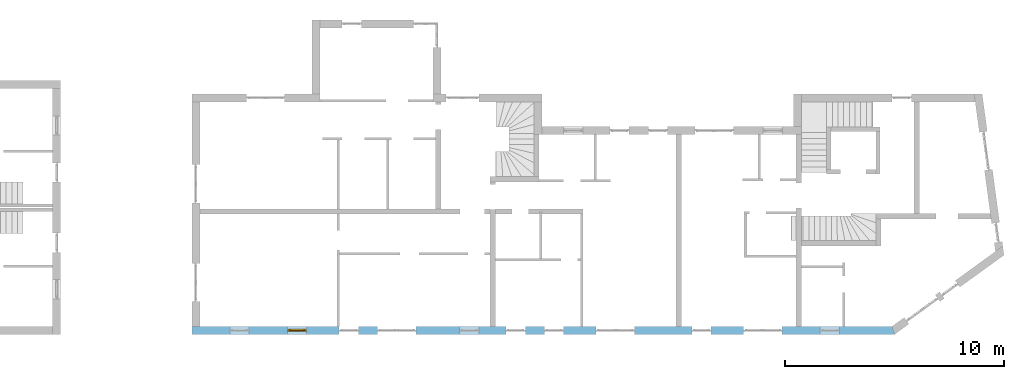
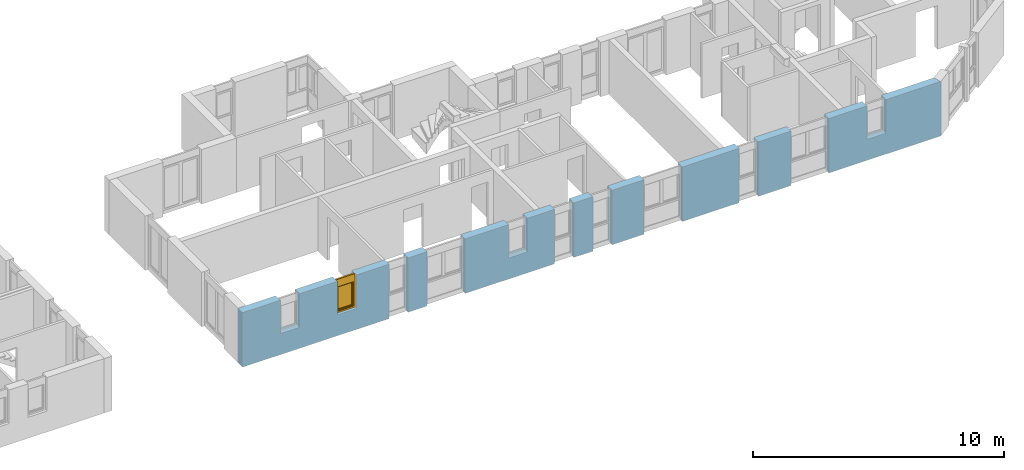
# One storey, part 29 of 42: 1 window, 11 openings, plus 1 element that does not belong to this part.
"""IFC2X3 building model written with IfcOpenShell, lengths in millimetres."""

from ifc_helpers import new_model, entity, si_unit, converted_unit, frame, frame_2d, origin, origin_with_axes, place, context, subcontext, project, spatial, polyline, rectangle, outline, extrude, faceted_brep, material, layer, layer_set, layer_usage, type_object, element, fill, save


model = new_model("IFC2X3")

# Units and contexts
model_context = context("Model", 3, precision=1e-05, world=origin())
body_context = subcontext(model_context, "Body", "Model", "MODEL_VIEW")
ifc_project = project(units=[si_unit("LENGTHUNIT", "METRE", prefix="MILLI"), converted_unit("PLANEANGLEUNIT", "DEGREE", entity("IfcPlaneAngleMeasure", 0.0174532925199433), si_unit("PLANEANGLEUNIT", "RADIAN"), dimensions=[0, 0, 0, 0, 0, 0, 0]), si_unit("AREAUNIT", "SQUARE_METRE"), si_unit("VOLUMEUNIT", "CUBIC_METRE")], contexts=[model_context])

# Building, storey
building_placement = place(None, origin())
building = spatial("IfcBuilding", under=ifc_project, at=building_placement, Name="Gebäude", CompositionType="ELEMENT")
storey_placement = place(building_placement, frame((0.0, 0.0, 2730.0), z_axis=(0.0, 0.0, 1.0), x_axis=(1.0, 0.0, 0.0)))
storey = spatial("IfcBuildingStorey", under=building, at=storey_placement, Name="OG.- Grundriss", CompositionType="ELEMENT", Elevation=2730.0)

# Wall, openings, window
ifc_material_1 = material(Name="Poroton")
ifc_layer = layer(ifc_material_1, 365.0000000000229)
ifc_layer_set = layer_set([ifc_layer])
ifc_layer_usage = layer_usage(ifc_layer_set, "AXIS2", "POSITIVE", 0.0)
wall_placement = place(storey_placement, frame((148357.7928067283, 125274.8877324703, 0.0), z_axis=(0.0, 0.0, 1.0), x_axis=(1.0, -2.749268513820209e-11, 0.0)))
wall = element("IfcWallStandardCase", 1, at=wall_placement, inside=storey, material=ifc_layer_usage, Name="<Unnamed Element>", context=body_context, shape_type="SweptSolid", body=[
    extrude(outline(polyline([(0.0, 0.0), (32144.99999877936, 0.0), (32026.74038666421, 365.0000000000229), (-1.003483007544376e-08, 365.0), (0.0, 0.0)])), origin_with_axes(), (0.0, 0.0, 1.0), 2650.0),
])
opening_1_placement = place(wall_placement, frame((22865.29648749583, -9.393166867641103e-11, 0.0), z_axis=(0.0, 1.0, 0.0), x_axis=(0.0, 0.0, 1.0)))
element("IfcOpeningElement", 2, at=opening_1_placement, cuts=wall, Name="Fensteröffnung", ObjectType="Opening", context=body_context, shape_type="SweptSolid", body=[
    extrude(rectangle(XDim=2650.0, YDim=885.0, at=frame_2d((1325.0, 442.5), x_axis=(1.0, 0.0))), origin_with_axes(), (0.0, 0.0, 1.0), 365.0000000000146),
])
opening_2_placement = place(wall_placement, frame((25240.29648749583, -1.030266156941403e-10, 0.0), z_axis=(0.0, 1.0, 0.0), x_axis=(0.0, 0.0, 1.0)))
element("IfcOpeningElement", 3, at=opening_2_placement, cuts=wall, Name="Fensteröffnung", ObjectType="Opening", context=body_context, shape_type="SweptSolid", body=[
    extrude(rectangle(XDim=2650.0, YDim=1760.0, at=frame_2d((1325.0, 880.0), x_axis=(1.0, 0.0))), origin_with_axes(), (0.0, 0.0, 1.0), 365.0000000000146),
])
opening_3_placement = place(wall_placement, frame((14365.26291869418, -5.847463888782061e-11, 0.0), z_axis=(0.0, 1.0, 0.0), x_axis=(0.0, 0.0, 1.0)))
element("IfcOpeningElement", 4, at=opening_3_placement, cuts=wall, Name="Fensteröffnung", ObjectType="Opening", context=body_context, shape_type="SweptSolid", body=[
    extrude(rectangle(XDim=2650.0, YDim=885.0, at=frame_2d((1325.0, 442.5), x_axis=(1.0, 0.0))), origin_with_axes(), (0.0, 0.0, 1.0), 365.0000000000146),
])
opening_4_placement = place(wall_placement, frame((16123.92212975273, -7.146586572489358e-11, 0.0), z_axis=(0.0, 1.0, 0.0), x_axis=(0.0, 0.0, 1.0)))
element("IfcOpeningElement", 5, at=opening_4_placement, cuts=wall, Name="Fensteröffnung", ObjectType="Opening", context=body_context, shape_type="SweptSolid", body=[
    extrude(rectangle(XDim=2650.0, YDim=885.0, at=frame_2d((1325.0, 442.5), x_axis=(1.0, 0.0))), origin_with_axes(), (0.0, 0.0, 1.0), 365.0000000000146),
])
opening_5_placement = place(wall_placement, frame((6739.999999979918, -3.114109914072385e-11, 0.0), z_axis=(0.0, 1.0, 0.0), x_axis=(0.0, 0.0, 1.0)))
element("IfcOpeningElement", 6, at=opening_5_placement, cuts=wall, Name="Fensteröffnung", ObjectType="Opening", context=body_context, shape_type="SweptSolid", body=[
    extrude(rectangle(XDim=2650.0, YDim=885.0, at=frame_2d((1325.0, 442.5), x_axis=(1.0, 0.0))), origin_with_axes(), (0.0, 0.0, 1.0), 365.0000000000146),
])
opening_6_placement = place(wall_placement, frame((8489.999999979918, -3.477907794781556e-11, 0.0), z_axis=(0.0, 1.0, 0.0), x_axis=(0.0, 0.0, 1.0)))
element("IfcOpeningElement", 7, at=opening_6_placement, cuts=wall, Name="Fensteröffnung", ObjectType="Opening", context=body_context, shape_type="SweptSolid", body=[
    extrude(rectangle(XDim=2650.0, YDim=1760.0, at=frame_2d((1325.0, 880.0), x_axis=(1.0, 0.0))), origin_with_axes(), (0.0, 0.0, 1.0), 365.0000000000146),
])
opening_7_placement = place(wall_placement, frame((1740.0, -3.114109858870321e-11, 1020.0), z_axis=(0.0, 1.0, 0.0), x_axis=(0.0, 0.0, 1.0)))
element("IfcOpeningElement", 8, at=opening_7_placement, cuts=wall, Name="Fensteröffnung", ObjectType="Opening", context=body_context, shape_type="SweptSolid", body=[
    extrude(rectangle(XDim=1630.0, YDim=885.0, at=frame_2d((815.0, 442.5), x_axis=(1.0, 0.0))), origin_with_axes(), (0.0, 0.0, 1.0), 365.0000000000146),
])
opening_8_placement = place(wall_placement, frame((4365.0, -7.494236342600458e-12, 1020.0), z_axis=(0.0, 1.0, 0.0), x_axis=(0.0, 0.0, 1.0)))
opening_8 = element("IfcOpeningElement", 9, at=opening_8_placement, cuts=wall, Name="Fensteröffnung", ObjectType="Opening", context=body_context, shape_type="SweptSolid", body=[
    extrude(rectangle(XDim=1630.0, YDim=885.0, at=frame_2d((815.0, 442.5), x_axis=(1.0, 0.0))), origin_with_axes(), (0.0, 0.0, 1.0), 365.0000000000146),
])
opening_9_placement = place(wall_placement, frame((12240.0, -5.296897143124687e-11, 1020.0), z_axis=(0.0, 1.0, 0.0), x_axis=(0.0, 0.0, 1.0)))
element("IfcOpeningElement", 10, at=opening_9_placement, cuts=wall, Name="Fensteröffnung", ObjectType="Opening", context=body_context, shape_type="SweptSolid", body=[
    extrude(rectangle(XDim=1630.0, YDim=885.0, at=frame_2d((815.0, 442.5), x_axis=(1.0, 0.0))), origin_with_axes(), (0.0, 0.0, 1.0), 365.0000000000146),
])
opening_10_placement = place(wall_placement, frame((18490.51063065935, -4.984640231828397e-11, 0.0), z_axis=(0.0, 1.0, 0.0), x_axis=(0.0, 0.0, 1.0)))
element("IfcOpeningElement", 11, at=opening_10_placement, cuts=wall, Name="Fensteröffnung", ObjectType="Opening", context=body_context, shape_type="SweptSolid", body=[
    extrude(rectangle(XDim=2650.0, YDim=1760.0, at=frame_2d((1325.0, 880.0), x_axis=(1.0, 0.0))), origin_with_axes(), (0.0, 0.0, 1.0), 365.0000000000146),
])
opening_11_placement = place(wall_placement, frame((28740.29648749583, -1.103025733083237e-10, 1020.0), z_axis=(0.0, 1.0, 0.0), x_axis=(0.0, 0.0, 1.0)))
element("IfcOpeningElement", 12, at=opening_11_placement, cuts=wall, Name="Fensteröffnung", ObjectType="Opening", context=body_context, shape_type="SweptSolid", body=[
    extrude(rectangle(XDim=1630.0, YDim=885.0, at=frame_2d((815.0, 442.5), x_axis=(1.0, 0.0))), origin_with_axes(), (0.0, 0.0, 1.0), 365.0000000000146),
])
ifc_material_2 = material()
window_style = type_object("IfcWindowStyle", Name="Fenster", ConstructionType="NOTDEFINED", OperationType="USERDEFINED", ParameterTakesPrecedence=False, Sizeable=False)
window_placement = place(opening_8_placement, frame((0.0, 0.0, 0.0), z_axis=(1.0, 0.0, 0.0), x_axis=(0.0, 1.0, 0.0)))
window = element("IfcWindow", 13, at=window_placement, inside=storey, type_object=window_style, material=ifc_material_2, Name="Fenster", OverallHeight=1630.0, OverallWidth=885.0, context=body_context, shape_type="Brep", body=[
    faceted_brep([(-1.221113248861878e-08, 200.000000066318, 1630.0), (-1.221113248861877e-08, 200.0000000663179, -2.449293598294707e-15), (69.99999998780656, 200.0000000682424, -2.449293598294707e-15), (69.99999998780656, 200.0000000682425, 1630.0), (-1.001171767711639e-08, 120.0000000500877, 2.449293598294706e-15), (-1.00117176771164e-08, 120.0000000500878, 1630.0), (69.99999999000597, 120.0000000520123, 1630.0), (69.99999999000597, 120.0000000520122, 2.449293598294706e-15), (-1.221113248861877e-08, 200.0000000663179, -2.449293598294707e-15), (-1.221113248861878e-08, 200.000000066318, 1630.0), (-1.00117176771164e-08, 120.0000000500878, 1630.0), (-1.001171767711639e-08, 120.0000000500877, 2.449293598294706e-15), (69.99999998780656, 200.0000000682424, -2.449293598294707e-15), (-1.221113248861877e-08, 200.0000000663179, -2.449293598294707e-15), (-1.001171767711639e-08, 120.0000000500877, 2.449293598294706e-15), (69.99999999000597, 120.0000000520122, 2.449293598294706e-15), (69.99999998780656, 200.0000000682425, 1630.0), (69.99999998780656, 200.0000000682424, -2.449293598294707e-15), (69.99999999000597, 120.0000000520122, 2.449293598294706e-15), (69.99999999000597, 120.0000000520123, 1630.0), (-1.221113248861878e-08, 200.000000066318, 1630.0), (69.99999998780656, 200.0000000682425, 1630.0), (69.99999999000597, 120.0000000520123, 1630.0), (-1.00117176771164e-08, 120.0000000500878, 1630.0)], [[[0, 1, 2, 3]], [[4, 5, 6, 7]], [[8, 9, 10, 11]], [[12, 13, 14, 15]], [[16, 17, 18, 19]], [[20, 21, 22, 23]]], orient=[[False], [False], [False], [False], [False], [False]]),
    faceted_brep([(814.9999999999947, 200.0000000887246, 1630.0), (814.9999999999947, 200.0000000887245, -2.449293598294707e-15), (885.0000000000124, 200.0000000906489, -2.449293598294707e-15), (885.0000000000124, 200.0000000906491, 1630.0), (815.000000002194, 120.0000000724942, 2.449293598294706e-15), (815.000000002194, 120.0000000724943, 1630.0), (885.0000000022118, 120.0000000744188, 1630.0), (885.0000000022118, 120.0000000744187, 2.449293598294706e-15), (814.9999999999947, 200.0000000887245, -2.449293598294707e-15), (814.9999999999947, 200.0000000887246, 1630.0), (815.000000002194, 120.0000000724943, 1630.0), (815.000000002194, 120.0000000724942, 2.449293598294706e-15), (885.0000000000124, 200.0000000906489, -2.449293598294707e-15), (814.9999999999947, 200.0000000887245, -2.449293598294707e-15), (815.000000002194, 120.0000000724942, 2.449293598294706e-15), (885.0000000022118, 120.0000000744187, 2.449293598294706e-15), (885.0000000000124, 200.0000000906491, 1630.0), (885.0000000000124, 200.0000000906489, -2.449293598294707e-15), (885.0000000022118, 120.0000000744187, 2.449293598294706e-15), (885.0000000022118, 120.0000000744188, 1630.0), (814.9999999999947, 200.0000000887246, 1630.0), (885.0000000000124, 200.0000000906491, 1630.0), (885.0000000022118, 120.0000000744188, 1630.0), (815.000000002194, 120.0000000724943, 1630.0)], [[[0, 1, 2, 3]], [[4, 5, 6, 7]], [[8, 9, 10, 11]], [[12, 13, 14, 15]], [[16, 17, 18, 19]], [[20, 21, 22, 23]]], orient=[[False], [False], [False], [False], [False], [False]]),
    faceted_brep([(69.99999998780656, 200.0000000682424, 69.99999999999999), (69.99999998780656, 200.0000000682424, -2.449293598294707e-15), (814.9999999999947, 200.0000000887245, -2.449293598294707e-15), (814.9999999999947, 200.0000000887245, 69.99999999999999), (69.99999999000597, 120.0000000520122, 2.449293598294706e-15), (69.99999999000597, 120.0000000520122, 69.99999999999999), (815.000000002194, 120.0000000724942, 69.99999999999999), (815.000000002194, 120.0000000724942, 2.449293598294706e-15), (69.99999998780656, 200.0000000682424, -2.449293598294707e-15), (69.99999998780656, 200.0000000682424, 69.99999999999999), (69.99999999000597, 120.0000000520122, 69.99999999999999), (69.99999999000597, 120.0000000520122, 2.449293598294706e-15), (814.9999999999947, 200.0000000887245, -2.449293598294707e-15), (69.99999998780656, 200.0000000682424, -2.449293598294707e-15), (69.99999999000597, 120.0000000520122, 2.449293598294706e-15), (815.000000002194, 120.0000000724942, 2.449293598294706e-15), (814.9999999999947, 200.0000000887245, 69.99999999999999), (814.9999999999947, 200.0000000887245, -2.449293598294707e-15), (815.000000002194, 120.0000000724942, 2.449293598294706e-15), (815.000000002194, 120.0000000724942, 69.99999999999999), (69.99999998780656, 200.0000000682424, 69.99999999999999), (814.9999999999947, 200.0000000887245, 69.99999999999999), (815.000000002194, 120.0000000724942, 69.99999999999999), (69.99999999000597, 120.0000000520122, 69.99999999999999)], [[[0, 1, 2, 3]], [[4, 5, 6, 7]], [[8, 9, 10, 11]], [[12, 13, 14, 15]], [[16, 17, 18, 19]], [[20, 21, 22, 23]]], orient=[[False], [False], [False], [False], [False], [False]]),
    faceted_brep([(69.99999998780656, 200.0000000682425, 1630.0), (69.99999998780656, 200.0000000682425, 1260.0), (814.9999999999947, 200.0000000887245, 1260.0), (814.9999999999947, 200.0000000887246, 1630.0), (69.99999999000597, 120.0000000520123, 1260.0), (69.99999999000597, 120.0000000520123, 1630.0), (815.000000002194, 120.0000000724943, 1630.0), (815.000000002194, 120.0000000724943, 1260.0), (69.99999998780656, 200.0000000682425, 1260.0), (69.99999998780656, 200.0000000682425, 1630.0), (69.99999999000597, 120.0000000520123, 1630.0), (69.99999999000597, 120.0000000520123, 1260.0), (814.9999999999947, 200.0000000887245, 1260.0), (69.99999998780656, 200.0000000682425, 1260.0), (69.99999999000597, 120.0000000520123, 1260.0), (815.000000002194, 120.0000000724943, 1260.0), (814.9999999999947, 200.0000000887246, 1630.0), (814.9999999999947, 200.0000000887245, 1260.0), (815.000000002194, 120.0000000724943, 1260.0), (815.000000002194, 120.0000000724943, 1630.0), (69.99999998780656, 200.0000000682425, 1630.0), (814.9999999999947, 200.0000000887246, 1630.0), (815.000000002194, 120.0000000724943, 1630.0), (69.99999999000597, 120.0000000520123, 1630.0)], [[[0, 1, 2, 3]], [[4, 5, 6, 7]], [[8, 9, 10, 11]], [[12, 13, 14, 15]], [[16, 17, 18, 19]], [[20, 21, 22, 23]]], orient=[[False], [False], [False], [False], [False], [False]]),
    faceted_brep([(49.9999999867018, 240.0000000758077, 1280.0), (49.9999999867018, 240.0000000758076, 49.99999999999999), (119.9999999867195, 240.0000000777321, 49.99999999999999), (119.9999999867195, 240.0000000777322, 1280.0), (49.99999998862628, 170.0000000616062, 50.0), (49.99999998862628, 170.0000000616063, 1280.0), (119.999999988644, 170.0000000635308, 1280.0), (119.999999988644, 170.0000000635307, 50.0), (49.9999999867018, 240.0000000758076, 49.99999999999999), (49.9999999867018, 240.0000000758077, 1280.0), (49.99999998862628, 170.0000000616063, 1280.0), (49.99999998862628, 170.0000000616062, 50.0), (119.9999999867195, 240.0000000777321, 49.99999999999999), (49.9999999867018, 240.0000000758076, 49.99999999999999), (49.99999998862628, 170.0000000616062, 50.0), (119.999999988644, 170.0000000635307, 50.0), (119.9999999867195, 240.0000000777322, 1280.0), (119.9999999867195, 240.0000000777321, 49.99999999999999), (119.999999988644, 170.0000000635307, 50.0), (119.999999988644, 170.0000000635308, 1280.0), (49.9999999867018, 240.0000000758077, 1280.0), (119.9999999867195, 240.0000000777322, 1280.0), (119.999999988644, 170.0000000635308, 1280.0), (49.99999998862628, 170.0000000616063, 1280.0)], [[[0, 1, 2, 3]], [[4, 5, 6, 7]], [[8, 9, 10, 11]], [[12, 13, 14, 15]], [[16, 17, 18, 19]], [[20, 21, 22, 23]]], orient=[[False], [False], [False], [False], [False], [False]]),
    faceted_brep([(764.9999999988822, 240.000000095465, 1280.0), (764.9999999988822, 240.0000000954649, 49.99999999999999), (834.9999999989, 240.0000000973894, 49.99999999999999), (834.9999999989, 240.0000000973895, 1280.0), (765.0000000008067, 170.0000000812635, 50.0), (765.0000000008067, 170.0000000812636, 1280.0), (835.0000000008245, 170.000000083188, 1280.0), (835.0000000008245, 170.000000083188, 50.0), (764.9999999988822, 240.0000000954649, 49.99999999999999), (764.9999999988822, 240.000000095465, 1280.0), (765.0000000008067, 170.0000000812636, 1280.0), (765.0000000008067, 170.0000000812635, 50.0), (834.9999999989, 240.0000000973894, 49.99999999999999), (764.9999999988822, 240.0000000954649, 49.99999999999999), (765.0000000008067, 170.0000000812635, 50.0), (835.0000000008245, 170.000000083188, 50.0), (834.9999999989, 240.0000000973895, 1280.0), (834.9999999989, 240.0000000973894, 49.99999999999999), (835.0000000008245, 170.000000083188, 50.0), (835.0000000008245, 170.000000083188, 1280.0), (764.9999999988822, 240.000000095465, 1280.0), (834.9999999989, 240.0000000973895, 1280.0), (835.0000000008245, 170.000000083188, 1280.0), (765.0000000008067, 170.0000000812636, 1280.0)], [[[0, 1, 2, 3]], [[4, 5, 6, 7]], [[8, 9, 10, 11]], [[12, 13, 14, 15]], [[16, 17, 18, 19]], [[20, 21, 22, 23]]], orient=[[False], [False], [False], [False], [False], [False]]),
    faceted_brep([(119.9999999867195, 240.0000000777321, 120.0), (119.9999999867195, 240.0000000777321, 49.99999999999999), (764.9999999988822, 240.0000000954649, 49.99999999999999), (764.9999999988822, 240.0000000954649, 120.0), (119.999999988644, 170.0000000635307, 50.0), (119.999999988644, 170.0000000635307, 120.0), (765.0000000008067, 170.0000000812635, 120.0), (765.0000000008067, 170.0000000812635, 50.0), (119.9999999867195, 240.0000000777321, 49.99999999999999), (119.9999999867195, 240.0000000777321, 120.0), (119.999999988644, 170.0000000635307, 120.0), (119.999999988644, 170.0000000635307, 50.0), (764.9999999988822, 240.0000000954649, 49.99999999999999), (119.9999999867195, 240.0000000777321, 49.99999999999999), (119.999999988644, 170.0000000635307, 50.0), (765.0000000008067, 170.0000000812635, 50.0), (764.9999999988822, 240.0000000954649, 120.0), (764.9999999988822, 240.0000000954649, 49.99999999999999), (765.0000000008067, 170.0000000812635, 50.0), (765.0000000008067, 170.0000000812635, 120.0), (119.9999999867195, 240.0000000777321, 120.0), (764.9999999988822, 240.0000000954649, 120.0), (765.0000000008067, 170.0000000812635, 120.0), (119.999999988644, 170.0000000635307, 120.0)], [[[0, 1, 2, 3]], [[4, 5, 6, 7]], [[8, 9, 10, 11]], [[12, 13, 14, 15]], [[16, 17, 18, 19]], [[20, 21, 22, 23]]], orient=[[False], [False], [False], [False], [False], [False]]),
    faceted_brep([(119.9999999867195, 240.0000000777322, 1280.0), (119.9999999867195, 240.0000000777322, 1210.0), (764.9999999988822, 240.000000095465, 1210.0), (764.9999999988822, 240.000000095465, 1280.0), (119.999999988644, 170.0000000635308, 1210.0), (119.999999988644, 170.0000000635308, 1280.0), (765.0000000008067, 170.0000000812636, 1280.0), (765.0000000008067, 170.0000000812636, 1210.0), (119.9999999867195, 240.0000000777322, 1210.0), (119.9999999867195, 240.0000000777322, 1280.0), (119.999999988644, 170.0000000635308, 1280.0), (119.999999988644, 170.0000000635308, 1210.0), (764.9999999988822, 240.000000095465, 1210.0), (119.9999999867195, 240.0000000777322, 1210.0), (119.999999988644, 170.0000000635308, 1210.0), (765.0000000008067, 170.0000000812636, 1210.0), (764.9999999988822, 240.000000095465, 1280.0), (764.9999999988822, 240.000000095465, 1210.0), (765.0000000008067, 170.0000000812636, 1210.0), (765.0000000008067, 170.0000000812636, 1280.0), (119.9999999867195, 240.0000000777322, 1280.0), (764.9999999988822, 240.000000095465, 1280.0), (765.0000000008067, 170.0000000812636, 1280.0), (119.999999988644, 170.0000000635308, 1280.0)], [[[0, 1, 2, 3]], [[4, 5, 6, 7]], [[8, 9, 10, 11]], [[12, 13, 14, 15]], [[16, 17, 18, 19]], [[20, 21, 22, 23]]], orient=[[False], [False], [False], [False], [False], [False]]),
    faceted_brep([(119.9999999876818, 205.0000000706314, 120.0), (764.9999999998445, 205.0000000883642, 120.0), (764.9999999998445, 205.0000000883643, 1210.0), (119.9999999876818, 205.0000000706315, 1210.0), (119.9999999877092, 204.0000000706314, 120.0), (119.9999999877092, 204.0000000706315, 1210.0), (764.999999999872, 204.0000000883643, 1210.0), (764.999999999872, 204.0000000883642, 120.0), (119.9999999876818, 205.0000000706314, 120.0), (119.9999999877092, 204.0000000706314, 120.0), (764.999999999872, 204.0000000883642, 120.0), (764.9999999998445, 205.0000000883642, 120.0), (764.9999999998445, 205.0000000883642, 120.0), (764.999999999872, 204.0000000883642, 120.0), (764.999999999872, 204.0000000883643, 1210.0), (764.9999999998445, 205.0000000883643, 1210.0), (764.9999999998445, 205.0000000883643, 1210.0), (764.999999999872, 204.0000000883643, 1210.0), (119.9999999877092, 204.0000000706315, 1210.0), (119.9999999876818, 205.0000000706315, 1210.0), (119.9999999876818, 205.0000000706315, 1210.0), (119.9999999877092, 204.0000000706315, 1210.0), (119.9999999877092, 204.0000000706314, 120.0), (119.9999999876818, 205.0000000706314, 120.0)], [[[0, 1, 2, 3]], [[4, 5, 6, 7]], [[8, 9, 10, 11]], [[12, 13, 14, 15]], [[16, 17, 18, 19]], [[20, 21, 22, 23]]], orient=[[False], [False], [False], [False], [False], [False]]),
])
fill(opening_8, window)

save(model, "model.ifc")
